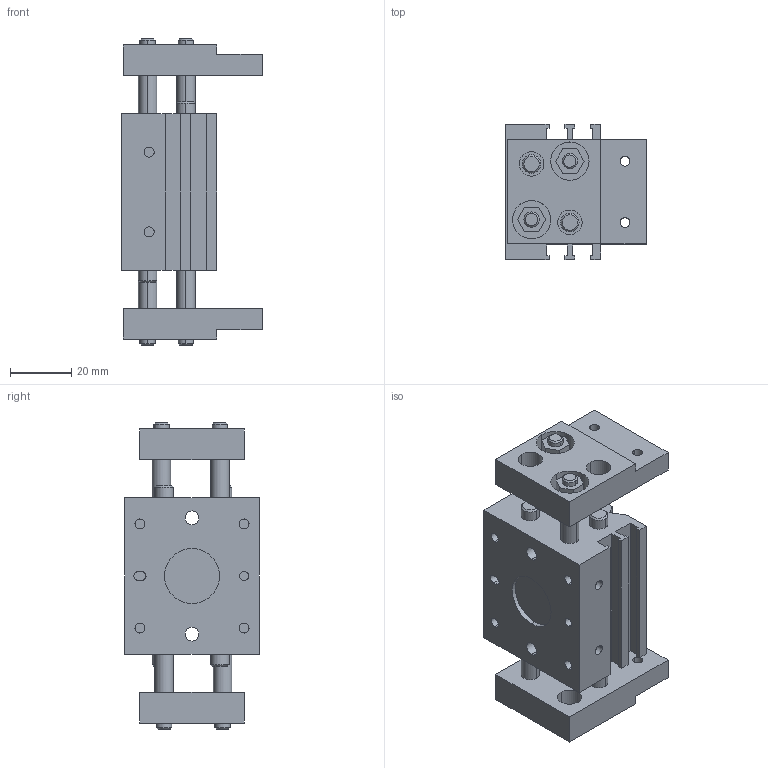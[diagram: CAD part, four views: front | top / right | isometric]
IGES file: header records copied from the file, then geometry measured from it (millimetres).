
Global section: file name: No Iges File Name specified; native system: AutoDesk Inventor R11.0; preprocessor: AutoDesk Inventor Iges Exporter R11.0; author: No Author specified; organization: No Organization specified; date: 20070224.105252; units: millimetre
Bounding box: 46 x 44 x 100 mm (x, y, z)
Volume: 86183.3 mm3; surface area: 34909.3 mm2
Topology: 3 solids, 3 shells, 203 faces, 494 edges, 324 vertices
Faces by surface type: plane 101, bspline 56, cylinder 16, cone 16, revolution 14
